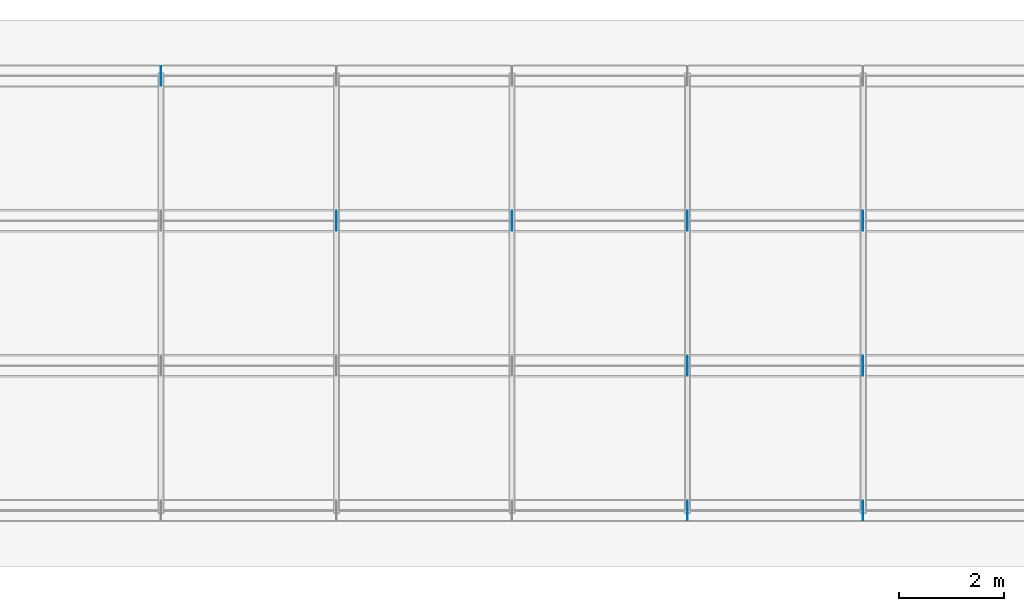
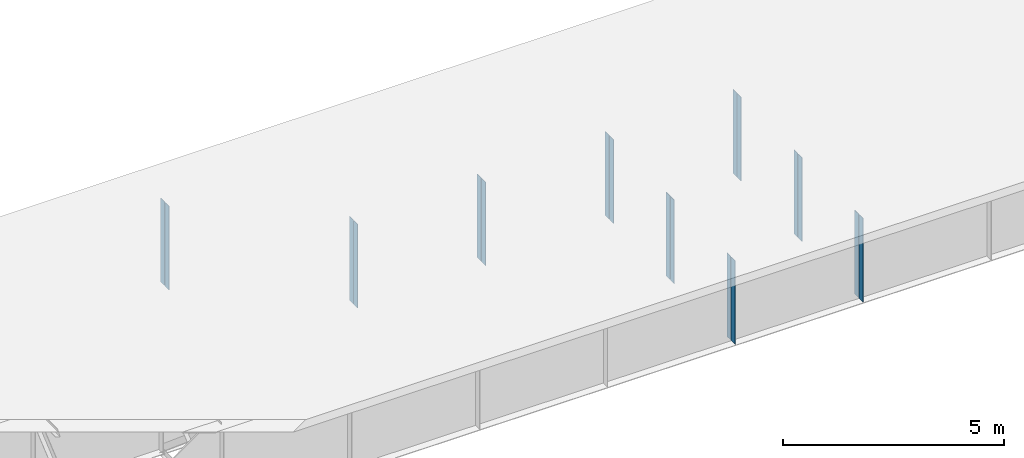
# One storey, part 10 of 13: 18 plates.
"""IFC4 building model written with IfcOpenShell, lengths in metres."""

from ifc_helpers import new_model, si_unit, frame, origin, origin_with_axes, origin_2d_with_axis, place, context, subcontext, project, spatial, rectangle, extrude, element, save


model = new_model("IFC4")

# Units and contexts
model_context = context("Model", 3, precision=1e-05, world=origin())
body_context = subcontext(model_context, "Body", "Model", "MODEL_VIEW")
ifc_project = project(units=[si_unit("LENGTHUNIT", "METRE"), si_unit("AREAUNIT", "SQUARE_METRE"), si_unit("VOLUMEUNIT", "CUBIC_METRE"), si_unit("PLANEANGLEUNIT", "RADIAN")], contexts=[model_context])

# Site, building, storey
site_placement = place(None, origin_with_axes())
site = spatial("IfcSite", under=ifc_project, at=site_placement, Name="Default Site")
building_placement = place(site_placement, origin_with_axes())
building = spatial("IfcBuilding", under=site, at=building_placement, Name="Bridge Structure")
storey_placement = place(building_placement, origin_with_axes())
storey = spatial("IfcBuildingStorey", under=building, at=storey_placement, Name="Superstructure")

# Plates
for number, where, z_axis, x_axis, name in (
    (1, (26.664, -4.02625, -1.155), (0.0, 0.0, 1.0), (1.0, 0.0, 0.0), "Intermediate Stiffener 1"),
    (2, (26.664, -4.22375, -1.155), (0.0, 0.0, 1.0), (1.0, 0.0, 0.0), "Intermediate Stiffener 1"),
    (3, (29.997, -4.02625, -1.155), (0.0, 0.0, 1.0), (1.0, 0.0, 0.0), "Intermediate Stiffener 1"),
    (4, (29.997, -4.22375, -1.155), (0.0, 0.0, 1.0), (1.0, 0.0, 0.0), "Intermediate Stiffener 1"),
    (5, (26.664, -1.27625, -1.155), (0.0, 0.0, 1.0), (1.0, 0.0, 0.0), "Intermediate Stiffener 2"),
    (6, (26.664, -1.4737500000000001, -1.155), (0.0, 0.0, 1.0), (1.0, 0.0, 0.0), "Intermediate Stiffener 2"),
    (7, (29.997, -1.27625, -1.155), (0.0, 0.0, 1.0), (1.0, 0.0, 0.0), "Intermediate Stiffener 2"),
    (8, (29.997, -1.4737500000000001, -1.155), (0.0, 0.0, 1.0), (1.0, 0.0, 0.0), "Intermediate Stiffener 2"),
    (9, (19.998, 1.4737500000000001, -1.155), (0.0, 0.0, 1.0), (1.0, 0.0, 0.0), "Intermediate Stiffener 3"),
    (10, (19.998, 1.27625, -1.155), (0.0, 0.0, 1.0), (1.0, 0.0, 0.0), "Intermediate Stiffener 3"),
    (11, (23.331, 1.4737500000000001, -1.155), (0.0, 0.0, 1.0), (1.0, 0.0, 0.0), "Intermediate Stiffener 3"),
    (12, (23.331, 1.27625, -1.155), (0.0, 0.0, 1.0), (1.0, 0.0, 0.0), "Intermediate Stiffener 3"),
    (13, (26.664, 1.4737500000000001, -1.155), (0.0, 0.0, 1.0), (1.0, 0.0, 0.0), "Intermediate Stiffener 3"),
    (14, (26.664, 1.27625, -1.155), (0.0, 0.0, 1.0), (1.0, 0.0, 0.0), "Intermediate Stiffener 3"),
    (15, (29.997, 1.4737500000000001, -1.155), (0.0, 0.0, 1.0), (1.0, 0.0, 0.0), "Intermediate Stiffener 3"),
    (16, (29.997, 1.27625, -1.155), (0.0, 0.0, 1.0), (1.0, 0.0, 0.0), "Intermediate Stiffener 3"),
    (17, (16.665, 4.22375, -1.155), (0.0, 0.0, 1.0), (1.0, 0.0, 0.0), "Intermediate Stiffener 4"),
    (18, (16.665, 4.02625, -1.155), (0.0, 0.0, 1.0), (1.0, 0.0, 0.0), "Intermediate Stiffener 4"),
):
    element("IfcPlate", number, at=place(storey_placement, frame(where, z_axis=z_axis, x_axis=x_axis)), inside=storey, Name=name, context=body_context, shape_type="SweptSolid", body=[
        extrude(rectangle(XDim=0.012, YDim=0.1775, at=origin_2d_with_axis()), origin_with_axes(), (0.0, 0.0, 1.0), 2.31),
    ])

save(model, "model.ifc")
